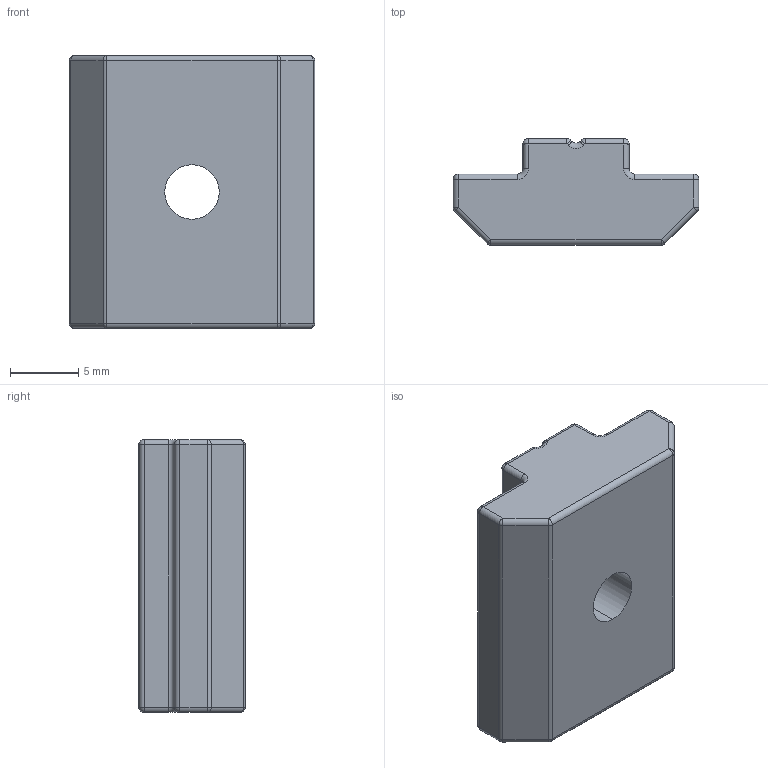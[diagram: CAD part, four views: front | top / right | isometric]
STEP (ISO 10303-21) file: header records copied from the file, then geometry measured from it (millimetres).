
FILE_DESCRIPTION (( 'STEP AP203' ), '1' );
FILE_NAME ('5069.STEP', '2016-04-22T16:47:27', ( '' ), ( '' ), 'SwSTEP 2.0', 'SolidWorks 2014', '' );
FILE_SCHEMA (( 'CONFIG_CONTROL_DESIGN' ));
Length unit declared in the file: millimetre
Products named in the file (1): 5069
Bounding box: 18 x 7.8 x 20 mm (x, y, z)
Volume: 2035.9 mm3; surface area: 1222 mm2
Topology: 1 solids, 1 shells, 87 faces, 202 edges, 100 vertices
Faces by surface type: cylinder 44, sphere 20, plane 17, torus 6
Entity records: 2381 total; most frequent: DIRECTION 438, CARTESIAN_POINT 410, ORIENTED_EDGE 372, EDGE_CURVE 186, AXIS2_PLACEMENT_3D 176, VERTEX_POINT 100, EDGE_LOOP 88, CIRCLE 88
